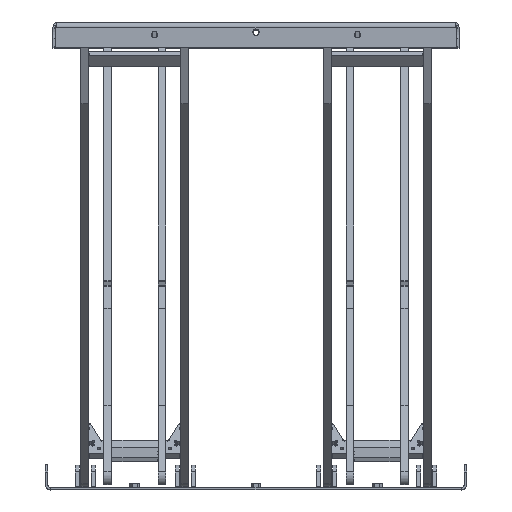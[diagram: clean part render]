
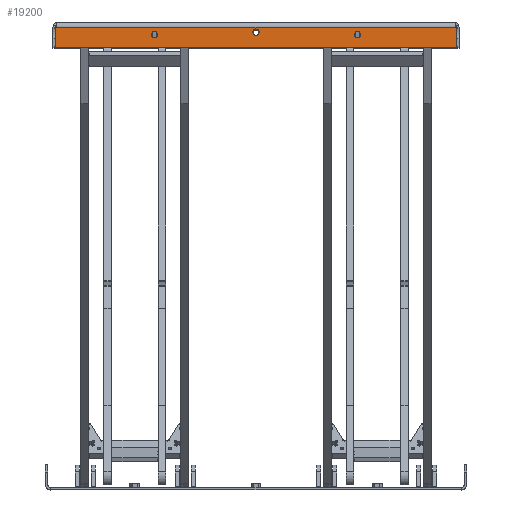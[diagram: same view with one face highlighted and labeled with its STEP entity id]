
A CAD part, front view. The second image highlights one B-rep face of the part: STEP entity #19200.
In plain terms, the highlighted planar face has unit normal (0, -1, 0.002) as drawn and (-1, 0, 0) by its records, which use the part's own axes.
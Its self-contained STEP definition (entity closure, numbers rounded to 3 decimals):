
#587=FACE_BOUND('',#4213,.T.);
#588=FACE_BOUND('',#4214,.T.);
#589=FACE_BOUND('',#4215,.T.);
#1436=CIRCLE('',#21164,1.);
#1438=CIRCLE('',#21167,1.);
#1439=CIRCLE('',#21168,1.);
#1440=CIRCLE('',#21169,1.);
#1441=CIRCLE('',#21170,6.25);
#1442=CIRCLE('',#21171,6.25);
#1443=CIRCLE('',#21172,6.25);
#3007=FACE_OUTER_BOUND('',#4212,.T.);
#4212=EDGE_LOOP('',(#16347,#16348,#16349,#16350,#16351,#16352,#16353,#16354,
#16355,#16356));
#4213=EDGE_LOOP('',(#16357));
#4214=EDGE_LOOP('',(#16358));
#4215=EDGE_LOOP('',(#16359));
#5765=LINE('',#31766,#7375);
#5766=LINE('',#31770,#7376);
#5767=LINE('',#31772,#7377);
#5768=LINE('',#31774,#7378);
#5769=LINE('',#31778,#7379);
#5770=LINE('',#31781,#7380);
#7375=VECTOR('',#26015,10.);
#7376=VECTOR('',#26018,10.);
#7377=VECTOR('',#26019,10.);
#7378=VECTOR('',#26020,10.);
#7379=VECTOR('',#26023,10.);
#7380=VECTOR('',#26026,10.);
#9143=VERTEX_POINT('',#31756);
#9144=VERTEX_POINT('',#31757);
#9147=VERTEX_POINT('',#31765);
#9148=VERTEX_POINT('',#31767);
#9149=VERTEX_POINT('',#31769);
#9150=VERTEX_POINT('',#31771);
#9151=VERTEX_POINT('',#31773);
#9152=VERTEX_POINT('',#31775);
#9153=VERTEX_POINT('',#31777);
#9154=VERTEX_POINT('',#31779);
#9155=VERTEX_POINT('',#31782);
#9156=VERTEX_POINT('',#31784);
#9157=VERTEX_POINT('',#31786);
#11666=EDGE_CURVE('',#9143,#9144,#1436,.T.);
#11670=EDGE_CURVE('',#9143,#9147,#5765,.T.);
#11671=EDGE_CURVE('',#9148,#9147,#1438,.T.);
#11672=EDGE_CURVE('',#9148,#9149,#5766,.T.);
#11673=EDGE_CURVE('',#9149,#9150,#5767,.T.);
#11674=EDGE_CURVE('',#9150,#9151,#5768,.T.);
#11675=EDGE_CURVE('',#9152,#9151,#1439,.T.);
#11676=EDGE_CURVE('',#9152,#9153,#5769,.T.);
#11677=EDGE_CURVE('',#9154,#9153,#1440,.T.);
#11678=EDGE_CURVE('',#9144,#9154,#5770,.T.);
#11679=EDGE_CURVE('',#9155,#9155,#1441,.T.);
#11680=EDGE_CURVE('',#9156,#9156,#1442,.T.);
#11681=EDGE_CURVE('',#9157,#9157,#1443,.T.);
#16347=ORIENTED_EDGE('',*,*,#11666,.F.);
#16348=ORIENTED_EDGE('',*,*,#11670,.T.);
#16349=ORIENTED_EDGE('',*,*,#11671,.F.);
#16350=ORIENTED_EDGE('',*,*,#11672,.T.);
#16351=ORIENTED_EDGE('',*,*,#11673,.T.);
#16352=ORIENTED_EDGE('',*,*,#11674,.T.);
#16353=ORIENTED_EDGE('',*,*,#11675,.F.);
#16354=ORIENTED_EDGE('',*,*,#11676,.T.);
#16355=ORIENTED_EDGE('',*,*,#11677,.F.);
#16356=ORIENTED_EDGE('',*,*,#11678,.F.);
#16357=ORIENTED_EDGE('',*,*,#11679,.T.);
#16358=ORIENTED_EDGE('',*,*,#11680,.T.);
#16359=ORIENTED_EDGE('',*,*,#11681,.T.);
#18393=PLANE('',#21166);
#19200=ADVANCED_FACE('',(#3007,#587,#588,#589),#18393,.F.);
#21164=AXIS2_PLACEMENT_3D('',#31758,#26007,#26008);
#21166=AXIS2_PLACEMENT_3D('',#31764,#26013,#26014);
#21167=AXIS2_PLACEMENT_3D('',#31768,#26016,#26017);
#21168=AXIS2_PLACEMENT_3D('',#31776,#26021,#26022);
#21169=AXIS2_PLACEMENT_3D('',#31780,#26024,#26025);
#21170=AXIS2_PLACEMENT_3D('',#31783,#26027,#26028);
#21171=AXIS2_PLACEMENT_3D('',#31785,#26029,#26030);
#21172=AXIS2_PLACEMENT_3D('',#31787,#26031,#26032);
#26007=DIRECTION('center_axis',(1.,0.,0.));
#26008=DIRECTION('ref_axis',(0.,0.707,0.707));
#26013=DIRECTION('center_axis',(1.,0.,0.));
#26014=DIRECTION('ref_axis',(0.,0.,-1.));
#26015=DIRECTION('',(0.,0.,-1.));
#26016=DIRECTION('center_axis',(1.,0.,0.));
#26017=DIRECTION('ref_axis',(0.,1.,-0.029));
#26018=DIRECTION('',(0.,-0.057,-0.998));
#26019=DIRECTION('',(0.,-1.,0.));
#26020=DIRECTION('',(0.,-0.057,0.998));
#26021=DIRECTION('center_axis',(1.,0.,0.));
#26022=DIRECTION('ref_axis',(0.,-1.,-0.029));
#26023=DIRECTION('',(0.,0.,1.));
#26024=DIRECTION('center_axis',(1.,0.,0.));
#26025=DIRECTION('ref_axis',(0.,-0.707,0.707));
#26026=DIRECTION('',(0.,-1.,0.));
#26027=DIRECTION('center_axis',(1.,0.,0.));
#26028=DIRECTION('ref_axis',(0.,0.,-1.));
#26029=DIRECTION('center_axis',(1.,0.,0.));
#26030=DIRECTION('ref_axis',(0.,0.,-1.));
#26031=DIRECTION('center_axis',(1.,0.,0.));
#26032=DIRECTION('ref_axis',(0.,0.,-1.));
#31756=CARTESIAN_POINT('',(-675.,394.89,49.));
#31757=CARTESIAN_POINT('',(-675.,393.89,50.));
#31758=CARTESIAN_POINT('Origin',(-675.,393.89,49.));
#31764=CARTESIAN_POINT('Origin',(-675.,0.,25.015));
#31765=CARTESIAN_POINT('',(-675.,394.89,24.608));
#31766=CARTESIAN_POINT('',(-675.,394.89,37.508));
#31767=CARTESIAN_POINT('',(-675.,394.888,24.551));
#31768=CARTESIAN_POINT('Origin',(-675.,393.89,24.608));
#31769=CARTESIAN_POINT('',(-675.,394.057,10.));
#31770=CARTESIAN_POINT('',(-675.,394.26,13.551));
#31771=CARTESIAN_POINT('',(-675.,-394.057,10.));
#31772=CARTESIAN_POINT('',(-675.,0.,10.));
#31773=CARTESIAN_POINT('',(-675.,-394.888,24.551));
#31774=CARTESIAN_POINT('',(-675.,-394.26,13.551));
#31775=CARTESIAN_POINT('',(-675.,-394.89,24.608));
#31776=CARTESIAN_POINT('Origin',(-675.,-393.89,24.608));
#31777=CARTESIAN_POINT('',(-675.,-394.89,49.));
#31778=CARTESIAN_POINT('',(-675.,-394.89,37.508));
#31779=CARTESIAN_POINT('',(-675.,-393.89,50.));
#31780=CARTESIAN_POINT('Origin',(-675.,-393.89,49.));
#31781=CARTESIAN_POINT('',(-675.,394.9,50.));
#31782=CARTESIAN_POINT('',(-675.,-200.,31.25));
#31783=CARTESIAN_POINT('Origin',(-675.,-200.,25.));
#31784=CARTESIAN_POINT('',(-675.,0.,26.25));
#31785=CARTESIAN_POINT('Origin',(-675.,0.,20.));
#31786=CARTESIAN_POINT('',(-675.,200.,31.25));
#31787=CARTESIAN_POINT('Origin',(-675.,200.,25.));
